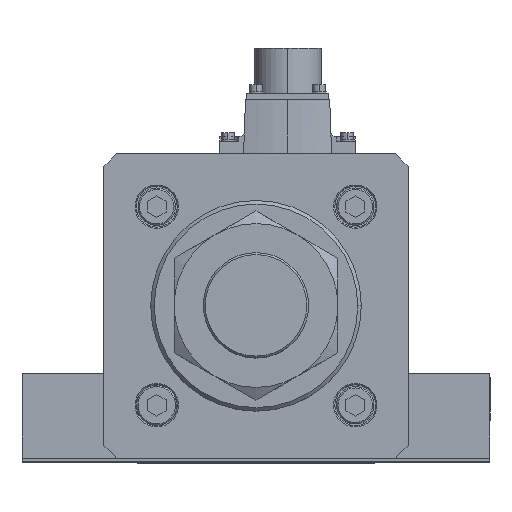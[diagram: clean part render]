
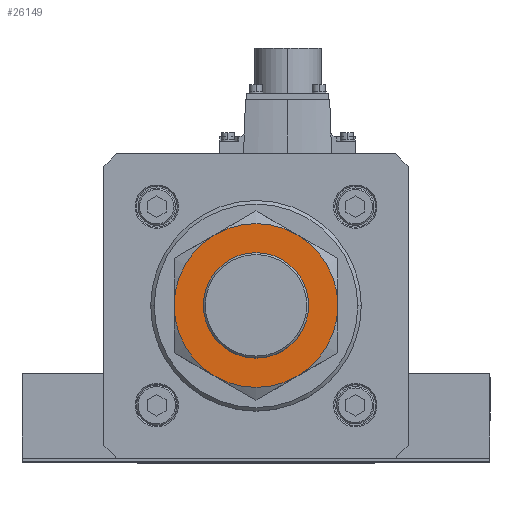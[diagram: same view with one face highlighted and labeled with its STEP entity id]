
A CAD part, top view. The second image highlights one B-rep face of the part: STEP entity #26149.
In plain terms, the highlighted planar face has unit normal (0, 0, 1).
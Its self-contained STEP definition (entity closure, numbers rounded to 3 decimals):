
#1163 = DIRECTION ( 'NONE',  ( 1., 0., 0. ) ) ;
#1611 = VERTEX_POINT ( 'NONE', #17413 ) ;
#2470 = CIRCLE ( 'NONE', #16850, 35. ) ;
#2854 = EDGE_CURVE ( 'NONE', #13320, #6493, #3893, .T. ) ;
#3871 = AXIS2_PLACEMENT_3D ( 'NONE', #36524, #36262, #27782 ) ;
#3893 = CIRCLE ( 'NONE', #11455, 35. ) ;
#4451 = CARTESIAN_POINT ( 'NONE',  ( 17.5, -30.311, 27. ) ) ;
#4664 = DIRECTION ( 'NONE',  ( 0., 0., -1. ) ) ;
#4849 = DIRECTION ( 'NONE',  ( 1., 0., 0. ) ) ;
#6130 = DIRECTION ( 'NONE',  ( 0., 0., 1. ) ) ;
#6408 = CIRCLE ( 'NONE', #37775, 22.5 ) ;
#6439 = EDGE_CURVE ( 'NONE', #8379, #25534, #6408, .T. ) ;
#6463 = CARTESIAN_POINT ( 'NONE',  ( 17.5, 30.311, 27. ) ) ;
#6493 = VERTEX_POINT ( 'NONE', #6883 ) ;
#6761 = EDGE_LOOP ( 'NONE', ( #26938, #9718, #37523, #10217, #26002, #35785 ) ) ;
#6883 = CARTESIAN_POINT ( 'NONE',  ( -17.5, 30.311, 27. ) ) ;
#7042 = EDGE_CURVE ( 'NONE', #27039, #13320, #30906, .T. ) ;
#7100 = EDGE_CURVE ( 'NONE', #15902, #1611, #9634, .T. ) ;
#7745 = DIRECTION ( 'NONE',  ( -1., 0., 0. ) ) ;
#8379 = VERTEX_POINT ( 'NONE', #36924 ) ;
#8602 = EDGE_CURVE ( 'NONE', #9423, #27039, #2470, .T. ) ;
#9301 = CARTESIAN_POINT ( 'NONE',  ( 0., 0., 27. ) ) ;
#9423 = VERTEX_POINT ( 'NONE', #4451 ) ;
#9634 = CIRCLE ( 'NONE', #9842, 35. ) ;
#9718 = ORIENTED_EDGE ( 'NONE', *, *, #7100, .F. ) ;
#9842 = AXIS2_PLACEMENT_3D ( 'NONE', #28174, #10332, #7745 ) ;
#10217 = ORIENTED_EDGE ( 'NONE', *, *, #2854, .F. ) ;
#10332 = DIRECTION ( 'NONE',  ( 0., 0., -1. ) ) ;
#11455 = AXIS2_PLACEMENT_3D ( 'NONE', #9301, #29711, #26894 ) ;
#12444 = CARTESIAN_POINT ( 'NONE',  ( 0., 0., 27. ) ) ;
#13314 = CARTESIAN_POINT ( 'NONE',  ( -35., 0., 27. ) ) ;
#13320 = VERTEX_POINT ( 'NONE', #13314 ) ;
#13593 = CARTESIAN_POINT ( 'NONE',  ( 0., 0., 27. ) ) ;
#13738 = DIRECTION ( 'NONE',  ( 0., 0., -1. ) ) ;
#15058 = DIRECTION ( 'NONE',  ( 0., 0., -1. ) ) ;
#15902 = VERTEX_POINT ( 'NONE', #6463 ) ;
#16054 = FACE_OUTER_BOUND ( 'NONE', #6761, .T. ) ;
#16562 = DIRECTION ( 'NONE',  ( -1., 0., 0. ) ) ;
#16850 = AXIS2_PLACEMENT_3D ( 'NONE', #19685, #13738, #37293 ) ;
#17413 = CARTESIAN_POINT ( 'NONE',  ( 35., 0., 27. ) ) ;
#18940 = CARTESIAN_POINT ( 'NONE',  ( 0., 0., 27. ) ) ;
#19685 = CARTESIAN_POINT ( 'NONE',  ( 0., 0., 27. ) ) ;
#20686 = CIRCLE ( 'NONE', #27839, 22.5 ) ;
#20939 = AXIS2_PLACEMENT_3D ( 'NONE', #37604, #28614, #4849 ) ;
#21297 = EDGE_CURVE ( 'NONE', #6493, #15902, #33657, .T. ) ;
#21595 = FACE_BOUND ( 'NONE', #34386, .T. ) ;
#23338 = AXIS2_PLACEMENT_3D ( 'NONE', #12444, #15058, #24212 ) ;
#24175 = ORIENTED_EDGE ( 'NONE', *, *, #33468, .F. ) ;
#24212 = DIRECTION ( 'NONE',  ( -1., 0., 0. ) ) ;
#25534 = VERTEX_POINT ( 'NONE', #31345 ) ;
#26002 = ORIENTED_EDGE ( 'NONE', *, *, #7042, .F. ) ;
#26149 = ADVANCED_FACE ( 'NONE', ( #16054, #21595 ), #31426, .T. ) ;
#26815 = DIRECTION ( 'NONE',  ( 1., 0., 0. ) ) ;
#26894 = DIRECTION ( 'NONE',  ( -1., 0., 0. ) ) ;
#26938 = ORIENTED_EDGE ( 'NONE', *, *, #38313, .F. ) ;
#27039 = VERTEX_POINT ( 'NONE', #30775 ) ;
#27782 = DIRECTION ( 'NONE',  ( -1., 0., 0. ) ) ;
#27839 = AXIS2_PLACEMENT_3D ( 'NONE', #32592, #6130, #26815 ) ;
#28174 = CARTESIAN_POINT ( 'NONE',  ( 0., 0., 27. ) ) ;
#28614 = DIRECTION ( 'NONE',  ( 0., 0., 1. ) ) ;
#29383 = AXIS2_PLACEMENT_3D ( 'NONE', #13593, #4664, #16562 ) ;
#29670 = CIRCLE ( 'NONE', #23338, 35. ) ;
#29711 = DIRECTION ( 'NONE',  ( 0., 0., -1. ) ) ;
#30136 = DIRECTION ( 'NONE',  ( 0., 0., 1. ) ) ;
#30775 = CARTESIAN_POINT ( 'NONE',  ( -17.5, -30.311, 27. ) ) ;
#30906 = CIRCLE ( 'NONE', #29383, 35. ) ;
#31345 = CARTESIAN_POINT ( 'NONE',  ( -22.5, 0., 27. ) ) ;
#31426 = PLANE ( 'NONE',  #20939 ) ;
#32592 = CARTESIAN_POINT ( 'NONE',  ( 0., 0., 27. ) ) ;
#33468 = EDGE_CURVE ( 'NONE', #25534, #8379, #20686, .T. ) ;
#33657 = CIRCLE ( 'NONE', #3871, 35. ) ;
#34386 = EDGE_LOOP ( 'NONE', ( #24175, #37253 ) ) ;
#35785 = ORIENTED_EDGE ( 'NONE', *, *, #8602, .F. ) ;
#36262 = DIRECTION ( 'NONE',  ( 0., 0., -1. ) ) ;
#36524 = CARTESIAN_POINT ( 'NONE',  ( 0., 0., 27. ) ) ;
#36924 = CARTESIAN_POINT ( 'NONE',  ( 22.5, 0., 27. ) ) ;
#37253 = ORIENTED_EDGE ( 'NONE', *, *, #6439, .F. ) ;
#37293 = DIRECTION ( 'NONE',  ( -1., 0., 0. ) ) ;
#37523 = ORIENTED_EDGE ( 'NONE', *, *, #21297, .F. ) ;
#37604 = CARTESIAN_POINT ( 'NONE',  ( 0., 0., 27. ) ) ;
#37775 = AXIS2_PLACEMENT_3D ( 'NONE', #18940, #30136, #1163 ) ;
#38313 = EDGE_CURVE ( 'NONE', #1611, #9423, #29670, .T. ) ;
